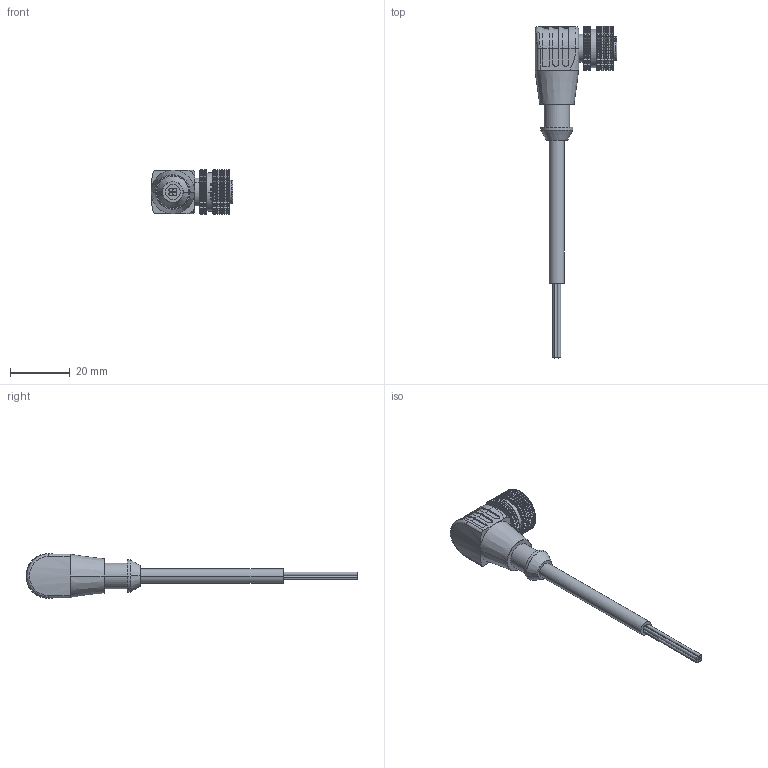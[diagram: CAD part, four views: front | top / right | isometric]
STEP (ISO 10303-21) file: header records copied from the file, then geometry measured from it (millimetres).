
FILE_DESCRIPTION((''),'2;1');
FILE_NAME('M12RL_SW0002','2016-11-14T',('Yahsin'),(''),'CREO PARAMETRIC BY PTC INC, 2014500','CREO PARAMETRIC BY PTC INC, 2014500','');
FILE_SCHEMA(('CONFIG_CONTROL_DESIGN'));
Length unit declared in the file: millimetre
Products named in the file (1): M12RL_SW0002
Bounding box: 27.4 x 110.99 x 15 mm (x, y, z)
Volume: 7213.7 mm3; surface area: 5024.8 mm2
Topology: 1 solids, 1 shells, 1307 faces, 3814 edges, 2532 vertices
Faces by surface type: cone 635, cylinder 404, plane 248, bspline 13, torus 7
Entity records: 50894 total; most frequent: CARTESIAN_POINT 17722, ORIENTED_EDGE 7628, DIRECTION 6290, EDGE_CURVE 3814, VERTEX_POINT 2532, AXIS2_PLACEMENT_3D 2512, EDGE_LOOP 1330, B_SPLINE_CURVE_WITH_KNOTS 1330
